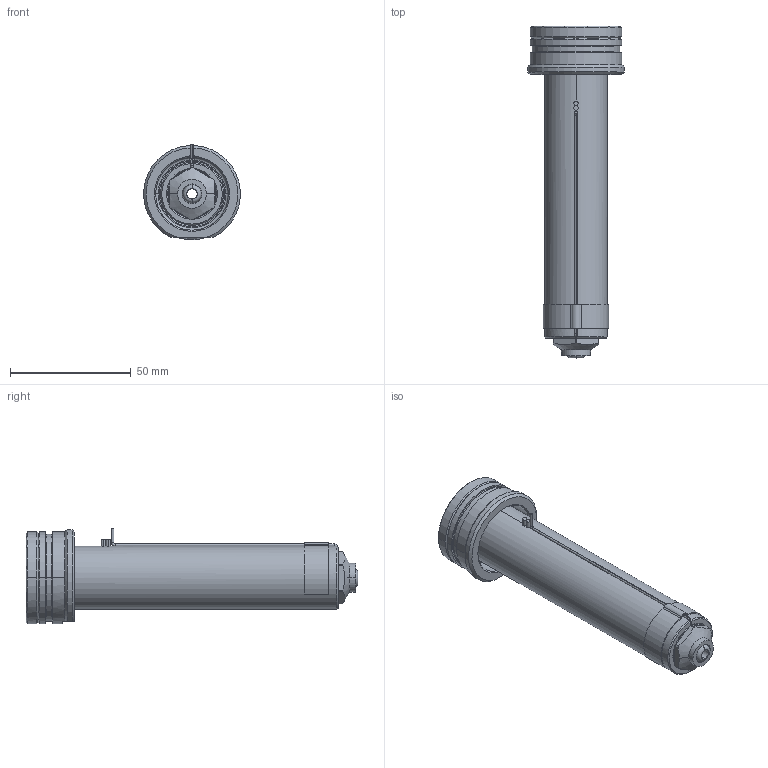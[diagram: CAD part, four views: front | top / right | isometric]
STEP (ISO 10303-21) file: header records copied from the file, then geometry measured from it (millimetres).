
FILE_DESCRIPTION((''),'2;1');
FILE_NAME('EO08_VG-BL_WR_120_SW','2024-02-19T13:07:29',('sundharh'),(''),'CREO PARAMETRIC BY PTC INC, 2023154','CREO PARAMETRIC BY PTC INC, 2023154','');
FILE_SCHEMA(('CONFIG_CONTROL_DESIGN'));
Length unit declared in the file: millimetre
Products named in the file (1): EO08_VG-BL_WR_120_SW
Bounding box: 39.88 x 137.2 x 39.52 mm (x, y, z)
Volume: 73213.5 mm3; surface area: 21255.5 mm2
Topology: 1 solids, 1 shells, 197 faces, 483 edges, 292 vertices
Faces by surface type: cylinder 72, plane 45, cone 39, torus 27, bspline 12, sphere 2
Entity records: 7184 total; most frequent: CARTESIAN_POINT 2451, DIRECTION 1055, ORIENTED_EDGE 958, EDGE_CURVE 479, AXIS2_PLACEMENT_3D 442, VERTEX_POINT 292, CIRCLE 257, EDGE_LOOP 213
